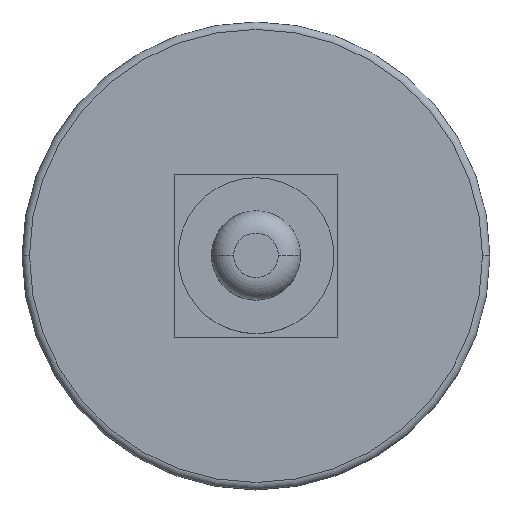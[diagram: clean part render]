
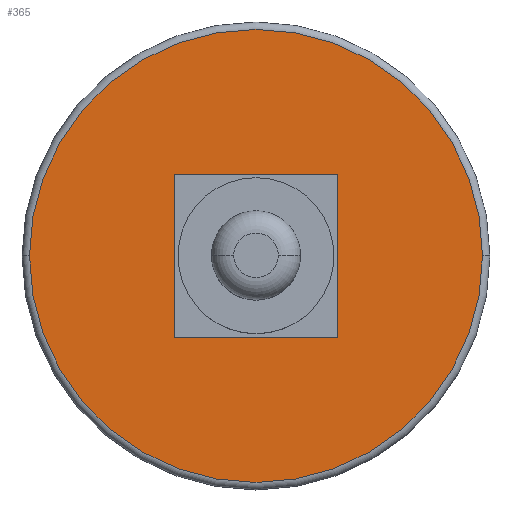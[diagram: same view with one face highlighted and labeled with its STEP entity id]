
A CAD part, top view. The second image highlights one B-rep face of the part: STEP entity #365.
In plain terms, the highlighted planar face has unit normal (0, 0, 1).
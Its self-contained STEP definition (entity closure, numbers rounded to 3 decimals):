
#2 = EDGE_LOOP ( 'NONE', ( #389, #45, #461, #24 ) ) ;
#16 = DIRECTION ( 'NONE',  ( 1., 0., 0. ) ) ;
#24 = ORIENTED_EDGE ( 'NONE', *, *, #352, .F. ) ;
#39 = LINE ( 'NONE', #226, #276 ) ;
#45 = ORIENTED_EDGE ( 'NONE', *, *, #107, .F. ) ;
#91 = CARTESIAN_POINT ( 'NONE',  ( 11., 11., 10. ) ) ;
#103 = CARTESIAN_POINT ( 'NONE',  ( 0., 0., 10. ) ) ;
#107 = EDGE_CURVE ( 'NONE', #476, #555, #422, .T. ) ;
#133 = EDGE_CURVE ( 'NONE', #427, #264, #411, .T. ) ;
#158 = CARTESIAN_POINT ( 'NONE',  ( -30.5, 0., 10. ) ) ;
#166 = AXIS2_PLACEMENT_3D ( 'NONE', #103, #214, #16 ) ;
#171 = DIRECTION ( 'NONE',  ( 0., 0., 1. ) ) ;
#174 = LINE ( 'NONE', #456, #302 ) ;
#175 = VECTOR ( 'NONE', #250, 1000. ) ;
#185 = LINE ( 'NONE', #91, #175 ) ;
#192 = VERTEX_POINT ( 'NONE', #418 ) ;
#214 = DIRECTION ( 'NONE',  ( 0., 0., 1. ) ) ;
#223 = DIRECTION ( 'NONE',  ( 1., 0., 0. ) ) ;
#226 = CARTESIAN_POINT ( 'NONE',  ( -11., 11., 10. ) ) ;
#228 = PLANE ( 'NONE',  #475 ) ;
#241 = CARTESIAN_POINT ( 'NONE',  ( 0., 0., 10. ) ) ;
#244 = DIRECTION ( 'NONE',  ( 1., 0., 0. ) ) ;
#250 = DIRECTION ( 'NONE',  ( 0., 1., 0. ) ) ;
#252 = ORIENTED_EDGE ( 'NONE', *, *, #133, .T. ) ;
#263 = CARTESIAN_POINT ( 'NONE',  ( 0., 0., 10. ) ) ;
#264 = VERTEX_POINT ( 'NONE', #158 ) ;
#265 = DIRECTION ( 'NONE',  ( -1., 0., 0. ) ) ;
#267 = CIRCLE ( 'NONE', #166, 30.5 ) ;
#276 = VECTOR ( 'NONE', #588, 1000. ) ;
#302 = VECTOR ( 'NONE', #265, 1000. ) ;
#305 = EDGE_CURVE ( 'NONE', #264, #427, #267, .T. ) ;
#327 = CARTESIAN_POINT ( 'NONE',  ( -11., -11., 10. ) ) ;
#351 = ORIENTED_EDGE ( 'NONE', *, *, #305, .T. ) ;
#352 = EDGE_CURVE ( 'NONE', #192, #377, #174, .T. ) ;
#357 = CARTESIAN_POINT ( 'NONE',  ( 30.5, 0., 10. ) ) ;
#365 = ADVANCED_FACE ( 'NONE', ( #497, #506 ), #228, .T. ) ;
#369 = DIRECTION ( 'NONE',  ( 0., 0., 1. ) ) ;
#377 = VERTEX_POINT ( 'NONE', #597 ) ;
#379 = EDGE_LOOP ( 'NONE', ( #252, #351 ) ) ;
#389 = ORIENTED_EDGE ( 'NONE', *, *, #595, .F. ) ;
#397 = CARTESIAN_POINT ( 'NONE',  ( -11., -11., 10. ) ) ;
#411 = CIRCLE ( 'NONE', #474, 30.5 ) ;
#414 = CARTESIAN_POINT ( 'NONE',  ( 11., -11., 10. ) ) ;
#418 = CARTESIAN_POINT ( 'NONE',  ( 11., 11., 10. ) ) ;
#422 = LINE ( 'NONE', #327, #485 ) ;
#427 = VERTEX_POINT ( 'NONE', #357 ) ;
#451 = EDGE_CURVE ( 'NONE', #377, #476, #39, .T. ) ;
#456 = CARTESIAN_POINT ( 'NONE',  ( -11., 11., 10. ) ) ;
#461 = ORIENTED_EDGE ( 'NONE', *, *, #451, .F. ) ;
#474 = AXIS2_PLACEMENT_3D ( 'NONE', #241, #369, #521 ) ;
#475 = AXIS2_PLACEMENT_3D ( 'NONE', #263, #171, #223 ) ;
#476 = VERTEX_POINT ( 'NONE', #397 ) ;
#485 = VECTOR ( 'NONE', #244, 1000. ) ;
#497 = FACE_OUTER_BOUND ( 'NONE', #379, .T. ) ;
#506 = FACE_BOUND ( 'NONE', #2, .T. ) ;
#521 = DIRECTION ( 'NONE',  ( 1., 0., 0. ) ) ;
#555 = VERTEX_POINT ( 'NONE', #414 ) ;
#588 = DIRECTION ( 'NONE',  ( 0., -1., 0. ) ) ;
#595 = EDGE_CURVE ( 'NONE', #555, #192, #185, .T. ) ;
#597 = CARTESIAN_POINT ( 'NONE',  ( -11., 11., 10. ) ) ;
